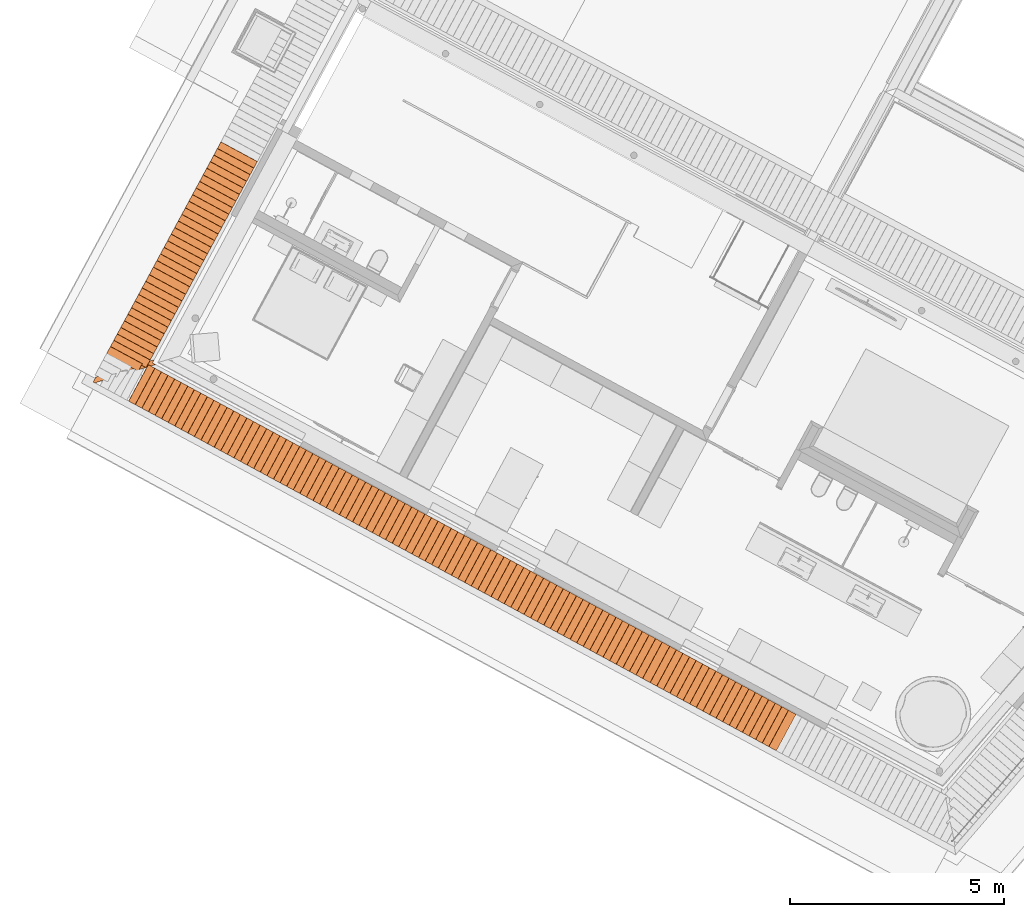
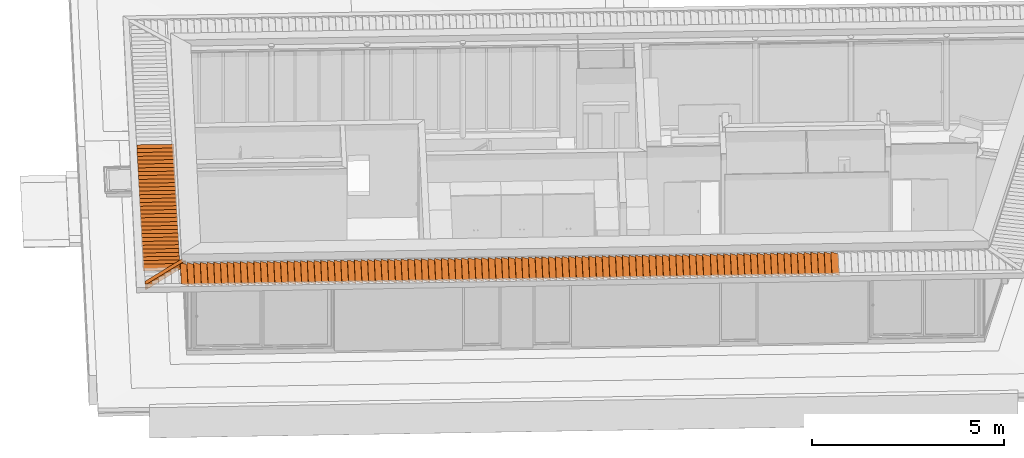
# One storey, part 37 of 41: 131 proxies.
"""IFC2X3 building model written with IfcOpenShell, lengths in metres."""

from ifc_helpers import new_model, entity, si_unit, converted_unit, derived_unit, money_unit, direction, frame, origin_with_axes, place, context, subcontext, project, spatial, polyline, outline, extrude, faceted_brep, source, transform, mapped, material, material_list, type_object, element, save


model = new_model("IFC2X3")

# Units and contexts
model_context = context("Model", 3, precision=1e-05, world=origin_with_axes(), true_north=direction((0.0, 1.0)))
body_context = subcontext(model_context, "Body", "Model", "MODEL_VIEW")
ifc_project = project(units=[si_unit("LENGTHUNIT", "METRE"), si_unit("AREAUNIT", "SQUARE_METRE"), si_unit("VOLUMEUNIT", "CUBIC_METRE"), converted_unit("PLANEANGLEUNIT", "DEGREE", entity("IfcPlaneAngleMeasure", 0.0174532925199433), si_unit("PLANEANGLEUNIT", "RADIAN"), dimensions=[0, 0, 0, 0, 0, 0, 0]), money_unit("EUR"), converted_unit("TIMEUNIT", "Year", entity("IfcTimeMeasure", 31556926.0), si_unit("TIMEUNIT", "SECOND"), dimensions=[0, 0, 1, 0, 0, 0, 0]), si_unit("MASSUNIT", "GRAM", prefix="KILO"), si_unit("THERMODYNAMICTEMPERATUREUNIT", "DEGREE_CELSIUS"), si_unit("LUMINOUSINTENSITYUNIT", "LUMEN"), si_unit("ENERGYUNIT", "JOULE", prefix="MEGA"), derived_unit("THERMALCONDUCTANCEUNIT", [(si_unit("POWERUNIT", "WATT"), 1), (si_unit("LENGTHUNIT", "METRE"), -1), (si_unit("THERMODYNAMICTEMPERATUREUNIT", "KELVIN"), -1)]), derived_unit("SPECIFICHEATCAPACITYUNIT", [(si_unit("ENERGYUNIT", "JOULE"), 1), (si_unit("MASSUNIT", "GRAM", prefix="KILO"), -1), (si_unit("THERMODYNAMICTEMPERATUREUNIT", "KELVIN"), -1)]), derived_unit("MASSDENSITYUNIT", [(si_unit("MASSUNIT", "GRAM", prefix="KILO"), 1), (si_unit("VOLUMEUNIT", "CUBIC_METRE"), -1)])], contexts=[model_context])

# Site, building, storey
site_placement = place(None, frame((-3.949935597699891, 1.740105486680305, 0.0), z_axis=(0.0, 0.0, 1.0), x_axis=(0.8799804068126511, -0.475009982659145, 0.0)))
site = spatial("IfcSite", under=ifc_project, at=site_placement, Name="Gelände", CompositionType="ELEMENT")
building_placement = place(site_placement, origin_with_axes())
building = spatial("IfcBuilding", under=site, at=building_placement, Name="Gebäude", CompositionType="ELEMENT")
storey_placement = place(building_placement, frame((0.0, 0.0, 4.55), z_axis=(0.0, 0.0, 1.0), x_axis=(1.0, 0.0, 0.0)))
storey = spatial("IfcBuildingStorey", under=building, at=storey_placement, Name="Staffelgeschoss", CompositionType="ELEMENT", Elevation=4.55)

# Proxies
ifc_material_1 = material(Name="ALLGEMEIN - BAUTEIL")
building_element_proxy_type_1 = type_object("IfcBuildingElementProxyType", Name="ALLGEMEIN - BAUTEIL", PredefinedType="USERDEFINED")
shared_shape_1 = source(origin_with_axes(), body_context, "Body", "Brep", [
    faceted_brep([(0.2148913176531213, -0.9669323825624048, 0.0), (0.0, -0.9669000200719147, 0.0), (0.0, 0.0, 0.0), (0.2150369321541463, -3.238441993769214e-05, 0.0), (0.2148913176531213, -0.9669323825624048, 0.009999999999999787), (0.0, -0.9669000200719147, 0.009999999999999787), (0.0, 0.0, 0.009999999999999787), (0.2150369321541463, -3.238441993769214e-05, 0.009999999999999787)], [[[0, 1, 2, 3]], [[1, 0, 4, 5]], [[5, 6, 2, 1]], [[6, 7, 3, 2]], [[4, 0, 3, 7]], [[6, 5, 4, 7]]]),
])
for number, where, z_axis, x_axis, name in (
    (1, (6.438674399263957, 1.096924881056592, 2.903466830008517), (0.3575193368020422, 0.0, 0.933905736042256), (0.933905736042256, 0.0, -0.3575193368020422), "Morph-037"),
    (2, (6.613633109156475, 1.096924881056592, 2.903466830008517), (0.3575193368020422, 0.0, 0.933905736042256), (0.933905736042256, 0.0, -0.3575193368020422), "Morph-037"),
    (3, (6.788591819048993, 1.096924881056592, 2.903466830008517), (0.3575193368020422, 0.0, 0.933905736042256), (0.933905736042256, 0.0, -0.3575193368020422), "Morph-037"),
    (4, (6.963550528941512, 1.096924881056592, 2.903466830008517), (0.3575193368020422, 0.0, 0.933905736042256), (0.933905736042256, 0.0, -0.3575193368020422), "Morph-037"),
    (5, (7.313467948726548, 1.096924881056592, 2.903466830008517), (0.3575193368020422, 0.0, 0.933905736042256), (0.933905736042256, 0.0, -0.3575193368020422), "Morph-037"),
    (6, (7.13850923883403, 1.096924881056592, 2.903466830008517), (0.3575193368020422, 0.0, 0.933905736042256), (0.933905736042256, 0.0, -0.3575193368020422), "Morph-037"),
    (7, (7.488426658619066, 1.096924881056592, 2.903466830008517), (0.3575193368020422, 0.0, 0.933905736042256), (0.933905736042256, 0.0, -0.3575193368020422), "Morph-037"),
    (8, (7.663385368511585, 1.096924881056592, 2.903466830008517), (0.3575193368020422, 0.0, 0.933905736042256), (0.933905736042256, 0.0, -0.3575193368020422), "Morph-037"),
    (9, (7.838344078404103, 1.096924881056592, 2.903466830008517), (0.3575193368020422, 0.0, 0.933905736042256), (0.933905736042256, 0.0, -0.3575193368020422), "Morph-037"),
    (10, (8.188261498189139, 1.096924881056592, 2.903466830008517), (0.3575193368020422, 0.0, 0.933905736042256), (0.933905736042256, 0.0, -0.3575193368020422), "Morph-037"),
    (11, (8.01330278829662, 1.096924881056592, 2.903466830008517), (0.3575193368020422, 0.0, 0.933905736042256), (0.933905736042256, 0.0, -0.3575193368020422), "Morph-037"),
    (12, (8.363220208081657, 1.096924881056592, 2.903466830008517), (0.3575193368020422, 0.0, 0.933905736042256), (0.933905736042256, 0.0, -0.3575193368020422), "Morph-037"),
    (13, (8.538178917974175, 1.096924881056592, 2.903466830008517), (0.3575193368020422, 0.0, 0.933905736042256), (0.933905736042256, 0.0, -0.3575193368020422), "Morph-037"),
    (14, (8.713137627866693, 1.096924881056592, 2.903466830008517), (0.3575193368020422, 0.0, 0.933905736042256), (0.933905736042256, 0.0, -0.3575193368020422), "Morph-037"),
    (15, (8.888096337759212, 1.096924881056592, 2.903466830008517), (0.3575193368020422, 0.0, 0.933905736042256), (0.933905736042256, 0.0, -0.3575193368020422), "Morph-037"),
    (16, (9.06305504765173, 1.096924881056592, 2.903466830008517), (0.3575193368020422, 0.0, 0.933905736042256), (0.933905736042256, 0.0, -0.3575193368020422), "Morph-037"),
    (17, (9.238013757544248, 1.096924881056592, 2.903466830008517), (0.3575193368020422, 0.0, 0.933905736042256), (0.933905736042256, 0.0, -0.3575193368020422), "Morph-037"),
    (18, (9.412972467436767, 1.096924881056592, 2.903466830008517), (0.3575193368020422, 0.0, 0.933905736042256), (0.933905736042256, 0.0, -0.3575193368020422), "Morph-037"),
    (19, (9.587931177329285, 1.096924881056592, 2.903466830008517), (0.3575193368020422, 0.0, 0.933905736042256), (0.933905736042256, 0.0, -0.3575193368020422), "Morph-037"),
    (20, (9.762889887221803, 1.096924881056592, 2.903466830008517), (0.3575193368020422, 0.0, 0.933905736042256), (0.933905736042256, 0.0, -0.3575193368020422), "Morph-037"),
    (21, (9.937848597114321, 1.096924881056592, 2.903466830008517), (0.3575193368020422, 0.0, 0.933905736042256), (0.933905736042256, 0.0, -0.3575193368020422), "Morph-037"),
    (22, (10.11280730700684, 1.096924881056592, 2.903466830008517), (0.3575193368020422, 0.0, 0.933905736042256), (0.933905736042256, 0.0, -0.3575193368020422), "Morph-037"),
    (23, (10.28776601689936, 1.096924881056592, 2.903466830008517), (0.3575193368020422, 0.0, 0.933905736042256), (0.933905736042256, 0.0, -0.3575193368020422), "Morph-037"),
    (24, (10.46272472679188, 1.096924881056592, 2.903466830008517), (0.3575193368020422, 0.0, 0.933905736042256), (0.933905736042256, 0.0, -0.3575193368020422), "Morph-037"),
    (25, (10.81264214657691, 1.096924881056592, 2.903466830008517), (0.3575193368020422, 0.0, 0.933905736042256), (0.933905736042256, 0.0, -0.3575193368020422), "Morph-037"),
    (26, (10.63768343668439, 1.096924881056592, 2.903466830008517), (0.3575193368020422, 0.0, 0.933905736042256), (0.933905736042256, 0.0, -0.3575193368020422), "Morph-037"),
    (27, (11.16255956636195, 1.096924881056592, 2.903466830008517), (0.3575193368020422, 0.0, 0.933905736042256), (0.933905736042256, 0.0, -0.3575193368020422), "Morph-037"),
    (28, (10.98760085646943, 1.096924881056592, 2.903466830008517), (0.3575193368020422, 0.0, 0.933905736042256), (0.933905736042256, 0.0, -0.3575193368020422), "Morph-037"),
    (29, (11.33751827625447, 1.096924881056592, 2.903466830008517), (0.3575193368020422, 0.0, 0.933905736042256), (0.933905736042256, 0.0, -0.3575193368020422), "Morph-037"),
    (30, (11.51247698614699, 1.096924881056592, 2.903466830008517), (0.3575193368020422, 0.0, 0.933905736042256), (0.933905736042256, 0.0, -0.3575193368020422), "Morph-037"),
    (31, (11.6874356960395, 1.096924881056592, 2.903466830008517), (0.3575193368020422, 0.0, 0.933905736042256), (0.933905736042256, 0.0, -0.3575193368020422), "Morph-037"),
    (32, (11.86239440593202, 1.096924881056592, 2.903466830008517), (0.3575193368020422, 0.0, 0.933905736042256), (0.933905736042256, 0.0, -0.3575193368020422), "Morph-037"),
    (33, (12.03735311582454, 1.096924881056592, 2.903466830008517), (0.3575193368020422, 0.0, 0.933905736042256), (0.933905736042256, 0.0, -0.3575193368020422), "Morph-037"),
    (34, (12.21231182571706, 1.096924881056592, 2.903466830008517), (0.3575193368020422, 0.0, 0.933905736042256), (0.933905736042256, 0.0, -0.3575193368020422), "Morph-037"),
    (35, (12.38727053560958, 1.096924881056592, 2.903466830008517), (0.3575193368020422, 0.0, 0.933905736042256), (0.933905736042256, 0.0, -0.3575193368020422), "Morph-037"),
    (36, (12.73718795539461, 1.096924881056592, 2.903466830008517), (0.3575193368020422, 0.0, 0.933905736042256), (0.933905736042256, 0.0, -0.3575193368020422), "Morph-037"),
    (37, (12.5622292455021, 1.096924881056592, 2.903466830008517), (0.3575193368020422, 0.0, 0.933905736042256), (0.933905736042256, 0.0, -0.3575193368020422), "Morph-037"),
    (38, (12.91214666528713, 1.096924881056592, 2.903466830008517), (0.3575193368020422, 0.0, 0.933905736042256), (0.933905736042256, 0.0, -0.3575193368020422), "Morph-037"),
    (39, (13.26206408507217, 1.096924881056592, 2.903466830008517), (0.3575193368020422, 0.0, 0.933905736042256), (0.933905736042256, 0.0, -0.3575193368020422), "Morph-037"),
    (40, (13.08710537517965, 1.096924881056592, 2.903466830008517), (0.3575193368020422, 0.0, 0.933905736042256), (0.933905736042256, 0.0, -0.3575193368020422), "Morph-037"),
    (41, (13.61198150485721, 1.096924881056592, 2.903466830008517), (0.3575193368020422, 0.0, 0.933905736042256), (0.933905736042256, 0.0, -0.3575193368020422), "Morph-037"),
    (42, (13.43702279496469, 1.096924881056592, 2.903466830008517), (0.3575193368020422, 0.0, 0.933905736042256), (0.933905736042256, 0.0, -0.3575193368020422), "Morph-037"),
    (43, (13.78694021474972, 1.096924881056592, 2.903466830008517), (0.3575193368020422, 0.0, 0.933905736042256), (0.933905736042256, 0.0, -0.3575193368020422), "Morph-037"),
    (44, (13.96189892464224, 1.096924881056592, 2.903466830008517), (0.3575193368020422, 0.0, 0.933905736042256), (0.933905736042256, 0.0, -0.3575193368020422), "Morph-037"),
    (45, (14.13685763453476, 1.096924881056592, 2.903466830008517), (0.3575193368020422, 0.0, 0.933905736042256), (0.933905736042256, 0.0, -0.3575193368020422), "Morph-037"),
    (46, (14.31181634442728, 1.096924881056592, 2.903466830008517), (0.3575193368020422, 0.0, 0.933905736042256), (0.933905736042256, 0.0, -0.3575193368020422), "Morph-037"),
    (47, (14.66173376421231, 1.096924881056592, 2.903466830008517), (0.3575193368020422, 0.0, 0.933905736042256), (0.933905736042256, 0.0, -0.3575193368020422), "Morph-037"),
    (48, (14.4867750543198, 1.096924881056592, 2.903466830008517), (0.3575193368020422, 0.0, 0.933905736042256), (0.933905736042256, 0.0, -0.3575193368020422), "Morph-037"),
    (49, (14.83669247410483, 1.096924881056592, 2.903466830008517), (0.3575193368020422, 0.0, 0.933905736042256), (0.933905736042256, 0.0, -0.3575193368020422), "Morph-037"),
    (50, (15.01165118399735, 1.096924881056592, 2.903466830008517), (0.3575193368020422, 0.0, 0.933905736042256), (0.933905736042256, 0.0, -0.3575193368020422), "Morph-037"),
    (51, (15.36156860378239, 1.096924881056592, 2.903466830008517), (0.3575193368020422, 0.0, 0.933905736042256), (0.933905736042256, 0.0, -0.3575193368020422), "Morph-037"),
    (52, (15.18660989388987, 1.096924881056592, 2.903466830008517), (0.3575193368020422, 0.0, 0.933905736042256), (0.933905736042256, 0.0, -0.3575193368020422), "Morph-037"),
    (53, (15.71148602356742, 1.096924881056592, 2.903466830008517), (0.3575193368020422, 0.0, 0.933905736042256), (0.933905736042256, 0.0, -0.3575193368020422), "Morph-037"),
    (54, (15.88644473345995, 1.096924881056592, 2.903466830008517), (0.3575193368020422, 0.0, 0.933905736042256), (0.933905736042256, 0.0, -0.3575193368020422), "Morph-037"),
    (55, (15.53652731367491, 1.096924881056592, 2.903466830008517), (0.3575193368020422, 0.0, 0.933905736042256), (0.933905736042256, 0.0, -0.3575193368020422), "Morph-037"),
    (56, (16.06140344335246, 1.096924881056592, 2.903466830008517), (0.3575193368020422, 0.0, 0.933905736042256), (0.933905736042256, 0.0, -0.3575193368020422), "Morph-037"),
    (57, (16.23636215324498, 1.096924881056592, 2.903466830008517), (0.3575193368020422, 0.0, 0.933905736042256), (0.933905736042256, 0.0, -0.3575193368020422), "Morph-037"),
    (58, (16.4113208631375, 1.096924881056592, 2.903466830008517), (0.3575193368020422, 0.0, 0.933905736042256), (0.933905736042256, 0.0, -0.3575193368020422), "Morph-037"),
    (59, (16.76123828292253, 1.096924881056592, 2.903466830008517), (0.3575193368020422, 0.0, 0.933905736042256), (0.933905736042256, 0.0, -0.3575193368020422), "Morph-037"),
    (60, (16.58627957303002, 1.096924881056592, 2.903466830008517), (0.3575193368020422, 0.0, 0.933905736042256), (0.933905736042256, 0.0, -0.3575193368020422), "Morph-037"),
    (61, (17.11115570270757, 1.096924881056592, 2.903466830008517), (0.3575193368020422, 0.0, 0.933905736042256), (0.933905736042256, 0.0, -0.3575193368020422), "Morph-037"),
    (62, (17.28611441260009, 1.096924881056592, 2.903466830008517), (0.3575193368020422, 0.0, 0.933905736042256), (0.933905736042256, 0.0, -0.3575193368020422), "Morph-037"),
    (63, (16.93619699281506, 1.096924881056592, 2.903466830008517), (0.3575193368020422, 0.0, 0.933905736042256), (0.933905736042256, 0.0, -0.3575193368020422), "Morph-037"),
    (64, (17.46107312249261, 1.096924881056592, 2.903466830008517), (0.3575193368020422, 0.0, 0.933905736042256), (0.933905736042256, 0.0, -0.3575193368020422), "Morph-037"),
    (65, (17.81099054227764, 1.096924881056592, 2.903466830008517), (0.3575193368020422, 0.0, 0.933905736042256), (0.933905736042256, 0.0, -0.3575193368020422), "Morph-037"),
    (66, (17.98594925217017, 1.096924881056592, 2.903466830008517), (0.3575193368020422, 0.0, 0.933905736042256), (0.933905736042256, 0.0, -0.3575193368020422), "Morph-037"),
    (67, (17.63603183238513, 1.096924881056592, 2.903466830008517), (0.3575193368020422, 0.0, 0.933905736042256), (0.933905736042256, 0.0, -0.3575193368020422), "Morph-037"),
    (68, (18.3358666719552, 1.096924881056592, 2.903466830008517), (0.3575193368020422, 0.0, 0.933905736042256), (0.933905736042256, 0.0, -0.3575193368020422), "Morph-037"),
    (69, (18.16090796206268, 1.096924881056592, 2.903466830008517), (0.3575193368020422, 0.0, 0.933905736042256), (0.933905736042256, 0.0, -0.3575193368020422), "Morph-037"),
    (70, (18.51082538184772, 1.096924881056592, 2.903466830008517), (0.3575193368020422, 0.0, 0.933905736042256), (0.933905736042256, 0.0, -0.3575193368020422), "Morph-037"),
    (71, (19.06143103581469, 1.096892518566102, 2.903466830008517), (0.3575193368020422, 0.0, 0.933905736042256), (0.933905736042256, 0.0, -0.3575193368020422), "Morph-037"),
    (72, (18.68578409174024, 1.096924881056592, 2.903466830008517), (0.3575193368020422, 0.0, 0.933905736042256), (0.933905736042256, 0.0, -0.3575193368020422), "Morph-037"),
    (73, (19.2363897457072, 1.096892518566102, 2.903466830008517), (0.3575193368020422, 0.0, 0.933905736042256), (0.933905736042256, 0.0, -0.3575193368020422), "Morph-037"),
    (74, (19.41134845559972, 1.096892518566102, 2.903466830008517), (0.3575193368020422, 0.0, 0.933905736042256), (0.933905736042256, 0.0, -0.3575193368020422), "Morph-037"),
    (75, (19.58630716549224, 1.096892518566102, 2.903466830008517), (0.3575193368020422, 0.0, 0.933905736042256), (0.933905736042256, 0.0, -0.3575193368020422), "Morph-037"),
    (76, (19.93622458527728, 1.096892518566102, 2.903466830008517), (0.3575193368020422, 0.0, 0.933905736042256), (0.933905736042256, 0.0, -0.3575193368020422), "Morph-037"),
    (77, (20.11118329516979, 1.096892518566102, 2.903466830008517), (0.3575193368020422, 0.0, 0.933905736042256), (0.933905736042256, 0.0, -0.3575193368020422), "Morph-037"),
    (78, (19.76126587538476, 1.096892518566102, 2.903466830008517), (0.3575193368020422, 0.0, 0.933905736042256), (0.933905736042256, 0.0, -0.3575193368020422), "Morph-037"),
    (79, (20.28614200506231, 1.096892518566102, 2.903466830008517), (0.3575193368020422, 0.0, 0.933905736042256), (0.933905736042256, 0.0, -0.3575193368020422), "Morph-037"),
    (80, (20.63605942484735, 1.096892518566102, 2.903466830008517), (0.3575193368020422, 0.0, 0.933905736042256), (0.933905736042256, 0.0, -0.3575193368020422), "Morph-037"),
    (81, (20.46110071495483, 1.096892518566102, 2.903466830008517), (0.3575193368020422, 0.0, 0.933905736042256), (0.933905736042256, 0.0, -0.3575193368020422), "Morph-037"),
    (82, (20.81101813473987, 1.096892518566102, 2.903466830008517), (0.3575193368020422, 0.0, 0.933905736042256), (0.933905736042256, 0.0, -0.3575193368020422), "Morph-037"),
    (83, (21.1609355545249, 1.096892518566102, 2.903466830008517), (0.3575193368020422, 0.0, 0.933905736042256), (0.933905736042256, 0.0, -0.3575193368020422), "Morph-037"),
    (84, (20.98597684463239, 1.096892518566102, 2.903466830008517), (0.3575193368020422, 0.0, 0.933905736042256), (0.933905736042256, 0.0, -0.3575193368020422), "Morph-037"),
    (85, (21.33589426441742, 1.096892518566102, 2.903466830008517), (0.3575193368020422, 0.0, 0.933905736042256), (0.933905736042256, 0.0, -0.3575193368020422), "Morph-037"),
    (86, (21.51085297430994, 1.096892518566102, 2.903466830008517), (0.3575193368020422, 0.0, 0.933905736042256), (0.933905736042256, 0.0, -0.3575193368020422), "Morph-037"),
    (87, (21.68581168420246, 1.096892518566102, 2.903466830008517), (0.3575193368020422, 0.0, 0.933905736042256), (0.933905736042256, 0.0, -0.3575193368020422), "Morph-037"),
    (88, (21.86077039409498, 1.096892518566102, 2.903466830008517), (0.3575193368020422, 0.0, 0.933905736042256), (0.933905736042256, 0.0, -0.3575193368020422), "Morph-037"),
    (89, (22.0357291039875, 1.096892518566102, 2.903466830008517), (0.3575193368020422, 0.0, 0.933905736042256), (0.933905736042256, 0.0, -0.3575193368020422), "Morph-037"),
    (90, (18.88647232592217, 1.096892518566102, 2.903466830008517), (0.3575193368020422, 0.0, 0.933905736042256), (0.933905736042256, 0.0, -0.3575193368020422), "Morph-037"),
    (91, (5.034057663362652, 5.784840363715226, 2.903466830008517), (0.0, -0.3575193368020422, 0.933905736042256), (0.0, -0.933905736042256, -0.3575193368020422), "Morph-037"),
    (92, (5.034057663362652, 5.609881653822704, 2.903466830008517), (0.0, -0.3575193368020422, 0.933905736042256), (0.0, -0.933905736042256, -0.3575193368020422), "Morph-037"),
    (93, (5.034057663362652, 5.959799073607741, 2.903466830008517), (0.0, -0.3575193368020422, 0.933905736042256), (0.0, -0.933905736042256, -0.3575193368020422), "Morph-037"),
    (94, (5.03402530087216, 1.21695218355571, 2.903466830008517), (0.0, -0.3575193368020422, 0.933905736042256), (0.0, -0.933905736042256, -0.3575193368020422), "Morph-037"),
    (95, (6.269082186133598, 1.096924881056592, 2.903466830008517), (0.3575193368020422, 0.0, 0.933905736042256), (0.933905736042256, 0.0, -0.3575193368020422), "Morph-037"),
    (96, (5.034025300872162, 2.434895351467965, 2.903466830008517), (0.0, -0.3575193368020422, 0.933905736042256), (0.0, -0.933905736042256, -0.3575193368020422), "Morph-037"),
    (97, (5.034025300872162, 2.784812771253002, 2.903466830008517), (0.0, -0.3575193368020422, 0.933905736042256), (0.0, -0.933905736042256, -0.3575193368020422), "Morph-037"),
    (98, (5.034025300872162, 2.609854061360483, 2.903466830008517), (0.0, -0.3575193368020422, 0.933905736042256), (0.0, -0.933905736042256, -0.3575193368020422), "Morph-037"),
    (99, (5.034057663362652, 3.160459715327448, 2.903466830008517), (0.0, -0.3575193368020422, 0.933905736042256), (0.0, -0.933905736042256, -0.3575193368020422), "Morph-037"),
    (100, (5.034057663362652, 3.33541842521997, 2.903466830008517), (0.0, -0.3575193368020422, 0.933905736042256), (0.0, -0.933905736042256, -0.3575193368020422), "Morph-037"),
    (101, (5.034057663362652, 3.685335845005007, 2.903466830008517), (0.0, -0.3575193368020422, 0.933905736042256), (0.0, -0.933905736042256, -0.3575193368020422), "Morph-037"),
    (102, (5.034057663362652, 3.860294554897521, 2.903466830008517), (0.0, -0.3575193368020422, 0.933905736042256), (0.0, -0.933905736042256, -0.3575193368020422), "Morph-037"),
    (103, (5.034057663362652, 3.510377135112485, 2.903466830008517), (0.0, -0.3575193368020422, 0.933905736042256), (0.0, -0.933905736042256, -0.3575193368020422), "Morph-037"),
    (104, (5.034057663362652, 4.035253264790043, 2.903466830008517), (0.0, -0.3575193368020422, 0.933905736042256), (0.0, -0.933905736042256, -0.3575193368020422), "Morph-037"),
    (105, (5.034057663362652, 4.210211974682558, 2.903466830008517), (0.0, -0.3575193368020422, 0.933905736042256), (0.0, -0.933905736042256, -0.3575193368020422), "Morph-037"),
    (106, (5.034057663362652, 4.38517068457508, 2.903466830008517), (0.0, -0.3575193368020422, 0.933905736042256), (0.0, -0.933905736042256, -0.3575193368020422), "Morph-037"),
    (107, (5.034057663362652, 4.560129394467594, 2.903466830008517), (0.0, -0.3575193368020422, 0.933905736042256), (0.0, -0.933905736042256, -0.3575193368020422), "Morph-037"),
    (108, (5.034057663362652, 4.735088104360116, 2.903466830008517), (0.0, -0.3575193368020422, 0.933905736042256), (0.0, -0.933905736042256, -0.3575193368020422), "Morph-037"),
    (109, (5.034057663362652, 5.085005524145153, 2.903466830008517), (0.0, -0.3575193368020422, 0.933905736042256), (0.0, -0.933905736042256, -0.3575193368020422), "Morph-037"),
    (110, (5.034057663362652, 4.910046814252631, 2.903466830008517), (0.0, -0.3575193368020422, 0.933905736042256), (0.0, -0.933905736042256, -0.3575193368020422), "Morph-037"),
    (111, (5.034057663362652, 5.259964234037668, 2.903466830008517), (0.0, -0.3575193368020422, 0.933905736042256), (0.0, -0.933905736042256, -0.3575193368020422), "Morph-037"),
    (112, (5.034057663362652, 5.434922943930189, 2.903466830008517), (0.0, -0.3575193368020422, 0.933905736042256), (0.0, -0.933905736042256, -0.3575193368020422), "Morph-037"),
    (113, (5.034025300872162, 2.259936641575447, 2.903466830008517), (0.0, -0.3575193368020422, 0.933905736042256), (0.0, -0.933905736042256, -0.3575193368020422), "Morph-037"),
    (114, (5.034025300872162, 2.084977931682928, 2.903466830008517), (0.0, -0.3575193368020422, 0.933905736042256), (0.0, -0.933905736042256, -0.3575193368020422), "Morph-037"),
    (115, (5.034025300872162, 1.91001922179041, 2.903466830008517), (0.0, -0.3575193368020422, 0.933905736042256), (0.0, -0.933905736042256, -0.3575193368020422), "Morph-037"),
    (116, (5.03402530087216, 1.735060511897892, 2.903466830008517), (0.0, -0.3575193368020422, 0.933905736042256), (0.0, -0.933905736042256, -0.3575193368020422), "Morph-037"),
    (117, (5.03402530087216, 1.560101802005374, 2.903466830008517), (0.0, -0.3575193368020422, 0.933905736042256), (0.0, -0.933905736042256, -0.3575193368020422), "Morph-037"),
    (118, (5.034025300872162, 2.95977148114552, 2.903466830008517), (0.0, -0.3575193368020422, 0.933905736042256), (0.0, -0.933905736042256, -0.3575193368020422), "Morph-037"),
    (119, (5.03402530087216, 1.385143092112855, 2.903466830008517), (0.0, -0.3575193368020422, 0.933905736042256), (0.0, -0.933905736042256, -0.3575193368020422), "Morph-037"),
    (120, (5.034057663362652, 6.484675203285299, 2.903466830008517), (0.0, -0.3575193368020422, 0.933905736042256), (0.0, -0.933905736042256, -0.3575193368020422), "Morph-037"),
    (121, (5.034057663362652, 6.309716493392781, 2.903466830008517), (0.0, -0.3575193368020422, 0.933905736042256), (0.0, -0.933905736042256, -0.3575193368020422), "Morph-037"),
    (122, (5.034057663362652, 6.134757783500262, 2.903466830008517), (0.0, -0.3575193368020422, 0.933905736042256), (0.0, -0.933905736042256, -0.3575193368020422), "Morph-037"),
    (123, (5.04437121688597, 1.096924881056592, 2.903466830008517), (0.3575193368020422, 0.0, 0.933905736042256), (0.933905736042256, 0.0, -0.3575193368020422), "Morph-037"),
    (124, (5.394288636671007, 1.096924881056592, 2.903466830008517), (0.3575193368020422, 0.0, 0.933905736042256), (0.933905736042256, 0.0, -0.3575193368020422), "Morph-037"),
    (125, (5.219329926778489, 1.096924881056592, 2.903466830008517), (0.3575193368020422, 0.0, 0.933905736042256), (0.933905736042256, 0.0, -0.3575193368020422), "Morph-037"),
    (126, (5.569247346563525, 1.096924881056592, 2.903466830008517), (0.3575193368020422, 0.0, 0.933905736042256), (0.933905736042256, 0.0, -0.3575193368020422), "Morph-037"),
    (127, (5.744206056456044, 1.096924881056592, 2.903466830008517), (0.3575193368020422, 0.0, 0.933905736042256), (0.933905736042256, 0.0, -0.3575193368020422), "Morph-037"),
    (128, (5.919164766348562, 1.096924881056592, 2.903466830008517), (0.3575193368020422, 0.0, 0.933905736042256), (0.933905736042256, 0.0, -0.3575193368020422), "Morph-037"),
    (129, (6.09412347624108, 1.096924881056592, 2.903466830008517), (0.3575193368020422, 0.0, 0.933905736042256), (0.933905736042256, 0.0, -0.3575193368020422), "Morph-037"),
):
    element("IfcBuildingElementProxy", number, at=place(storey_placement, frame(where, z_axis=z_axis, x_axis=x_axis)), inside=storey, type_object=building_element_proxy_type_1, material=ifc_material_1, Name=name, ObjectType="SHADING_DEVICE", context=body_context, shape_type="MappedRepresentation", body=[
        mapped(shared_shape_1, transform((0.0, 0.0, 0.0))),
    ])
shared_shape_2 = source(origin_with_axes(), body_context, "Body", "Brep", [
    faceted_brep([(-5.340442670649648e-05, -0.3143936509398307, -1.305102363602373e-05), (-2.435784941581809e-05, -0.1215204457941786, -1.305102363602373e-05), (0.2150125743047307, -0.1215528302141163, -1.305102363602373e-05), (0.2148913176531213, -0.9669323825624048, 0.0), (0.0, -0.9669000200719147, 0.0), (-5.340442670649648e-05, -0.3143936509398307, 0.00998694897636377), (-2.435784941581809e-05, -0.1215204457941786, 0.00998694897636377), (0.2150125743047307, -0.1215528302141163, 0.00998694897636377), (0.2148913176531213, -0.9669323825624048, 0.009999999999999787), (0.0, -0.9669000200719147, 0.009999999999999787)], [[[0, 1, 2, 3, 4]], [[0, 5, 6, 1]], [[1, 6, 7, 2]], [[8, 3, 2, 7]], [[3, 8, 9, 4]], [[9, 5, 0, 4]], [[5, 9, 8, 7, 6]]]),
])
proxy_1_placement = place(storey_placement, frame((5.033951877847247, 1.052873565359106, 2.903466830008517), z_axis=(0.0, -0.3575193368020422, 0.933905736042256), x_axis=(0.0, -0.933905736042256, -0.3575193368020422)))
element("IfcBuildingElementProxy", 130, at=proxy_1_placement, inside=storey, type_object=building_element_proxy_type_1, material=ifc_material_1, Name="Morph-037", ObjectType="SHADING_DEVICE", context=body_context, shape_type="MappedRepresentation", body=[
    mapped(shared_shape_2, transform((0.0, 0.0, 0.0))),
])
ifc_material_2 = material(Name="Dämmung, hart EPS")
ifc_material_3 = material(Name="Sperrschicht, Folie")
ifc_material_4 = material(Name="Estrich")
ifc_material_5 = material(Name="Kleber")
ifc_material_6 = material(Name="Beton, Leichtbeton")
ifc_material_list = material_list([ifc_material_2, ifc_material_3, ifc_material_4, ifc_material_5, ifc_material_6])
building_element_proxy_type_2 = type_object("IfcBuildingElementProxyType", Name="BO | Dämmung 8+Folie+Estrich 7+Fliese 0,5 | 16cm 170", PredefinedType="NOTDEFINED")
proxy_2_placement = place(storey_placement, frame((4.105283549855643, 0.258779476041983, 2.75), z_axis=(0.0, 0.0, 1.0), x_axis=(1.0, 0.0, 0.0)))
element("IfcBuildingElementProxy", 131, at=proxy_2_placement, inside=storey, type_object=building_element_proxy_type_2, material=ifc_material_list, Name="Decke029", context=body_context, shape_type="SweptSolid", body=[
    extrude(outline(polyline([(0.0, 0.0), (0.0008791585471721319, -0.128752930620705), (0.04320030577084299, -0.1287529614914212), (1.093174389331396, 0.9212211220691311), (1.007197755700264, 0.9212211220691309), (1.007197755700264, 1.007197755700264), (0.0, 0.0)])), origin_with_axes(), (0.0, 0.0, 1.0), 0.08),
    extrude(outline(polyline([(0.0, 0.0), (0.0008791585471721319, -0.128752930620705), (0.04320030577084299, -0.1287529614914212), (1.093174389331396, 0.9212211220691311), (1.007197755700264, 0.9212211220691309), (1.007197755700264, 1.007197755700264), (0.0, 0.0)])), frame((0.0, 0.0, 0.08), z_axis=(0.0, 0.0, 1.0), x_axis=(1.0, 0.0, 0.0)), (0.0, 0.0, 1.0), 0.0),
    extrude(outline(polyline([(0.0, 0.0), (0.0008791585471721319, -0.128752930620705), (0.04320030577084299, -0.1287529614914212), (1.093174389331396, 0.9212211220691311), (1.007197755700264, 0.9212211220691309), (1.007197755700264, 1.007197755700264), (0.0, 0.0)])), frame((0.0, 0.0, 0.08), z_axis=(0.0, 0.0, 1.0), x_axis=(1.0, 0.0, 0.0)), (0.0, 0.0, 1.0), 0.07),
    extrude(outline(polyline([(0.0, 0.0), (0.0008791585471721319, -0.128752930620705), (0.04320030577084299, -0.1287529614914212), (1.093174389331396, 0.9212211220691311), (1.007197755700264, 0.9212211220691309), (1.007197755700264, 1.007197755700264), (0.0, 0.0)])), frame((0.0, 0.0, 0.15), z_axis=(0.0, 0.0, 1.0), x_axis=(1.0, 0.0, 0.0)), (0.0, 0.0, 1.0), 0.01),
    extrude(outline(polyline([(0.0, 0.0), (0.0008791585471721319, -0.128752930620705), (0.04320030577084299, -0.1287529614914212), (1.093174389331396, 0.9212211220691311), (1.007197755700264, 0.9212211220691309), (1.007197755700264, 1.007197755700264), (0.0, 0.0)])), frame((0.0, 0.0, 0.16), z_axis=(0.0, 0.0, 1.0), x_axis=(1.0, 0.0, 0.0)), (0.0, 0.0, 1.0), 0.01),
])

save(model, "model.ifc")
